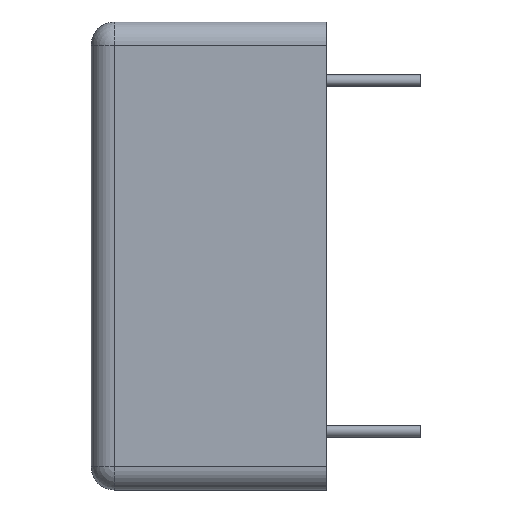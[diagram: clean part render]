
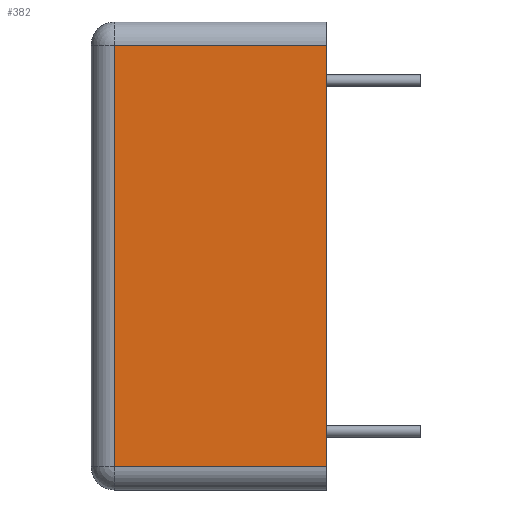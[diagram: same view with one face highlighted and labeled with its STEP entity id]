
A CAD part, left-side view. The second image highlights one B-rep face of the part: STEP entity #382.
In plain terms, the highlighted planar face has unit normal (-1, 0, 0).
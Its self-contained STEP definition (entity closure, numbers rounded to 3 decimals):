
#18 = DIRECTION ( 'NONE',  ( 0., -1., 0. ) ) ;
#49 = DIRECTION ( 'NONE',  ( 1., 0., 0. ) ) ;
#60 = CARTESIAN_POINT ( 'NONE',  ( -15.9, 10.2, -10.15 ) ) ;
#117 = LINE ( 'NONE', #474, #518 ) ;
#119 = ORIENTED_EDGE ( 'NONE', *, *, #567, .T. ) ;
#143 = LINE ( 'NONE', #755, #1026 ) ;
#184 = VECTOR ( 'NONE', #551, 1000. ) ;
#231 = DIRECTION ( 'NONE',  ( 0., 1., 0. ) ) ;
#247 = LINE ( 'NONE', #672, #184 ) ;
#249 = AXIS2_PLACEMENT_3D ( 'NONE', #60, #49, #352 ) ;
#286 = VECTOR ( 'NONE', #18, 1000. ) ;
#352 = DIRECTION ( 'NONE',  ( 0., 0., -1. ) ) ;
#382 = ADVANCED_FACE ( 'NONE', ( #932 ), #446, .F. ) ;
#395 = DIRECTION ( 'NONE',  ( 0., 0., -1. ) ) ;
#411 = ORIENTED_EDGE ( 'NONE', *, *, #532, .T. ) ;
#438 = EDGE_CURVE ( 'NONE', #1221, #1008, #143, .T. ) ;
#446 = PLANE ( 'NONE',  #249 ) ;
#474 = CARTESIAN_POINT ( 'NONE',  ( -15.9, 9.2, -9.15 ) ) ;
#518 = VECTOR ( 'NONE', #395, 1000. ) ;
#532 = EDGE_CURVE ( 'NONE', #1008, #671, #117, .T. ) ;
#551 = DIRECTION ( 'NONE',  ( 0., 0., 1. ) ) ;
#567 = EDGE_CURVE ( 'NONE', #671, #1229, #797, .T. ) ;
#671 = VERTEX_POINT ( 'NONE', #725 ) ;
#672 = CARTESIAN_POINT ( 'NONE',  ( -15.9, 0., -10.15 ) ) ;
#725 = CARTESIAN_POINT ( 'NONE',  ( -15.9, 9.2, -9.15 ) ) ;
#755 = CARTESIAN_POINT ( 'NONE',  ( -15.9, 10.2, 9.15 ) ) ;
#791 = EDGE_CURVE ( 'NONE', #1229, #1221, #247, .T. ) ;
#796 = CARTESIAN_POINT ( 'NONE',  ( -15.9, 9.2, 9.15 ) ) ;
#797 = LINE ( 'NONE', #897, #286 ) ;
#811 = EDGE_LOOP ( 'NONE', ( #901, #411, #119, #822 ) ) ;
#822 = ORIENTED_EDGE ( 'NONE', *, *, #791, .T. ) ;
#828 = CARTESIAN_POINT ( 'NONE',  ( -15.9, 0., 9.15 ) ) ;
#897 = CARTESIAN_POINT ( 'NONE',  ( -15.9, 10.2, -9.15 ) ) ;
#901 = ORIENTED_EDGE ( 'NONE', *, *, #438, .T. ) ;
#927 = CARTESIAN_POINT ( 'NONE',  ( -15.9, 0., -9.15 ) ) ;
#932 = FACE_OUTER_BOUND ( 'NONE', #811, .T. ) ;
#1008 = VERTEX_POINT ( 'NONE', #796 ) ;
#1026 = VECTOR ( 'NONE', #231, 1000. ) ;
#1221 = VERTEX_POINT ( 'NONE', #828 ) ;
#1229 = VERTEX_POINT ( 'NONE', #927 ) ;
